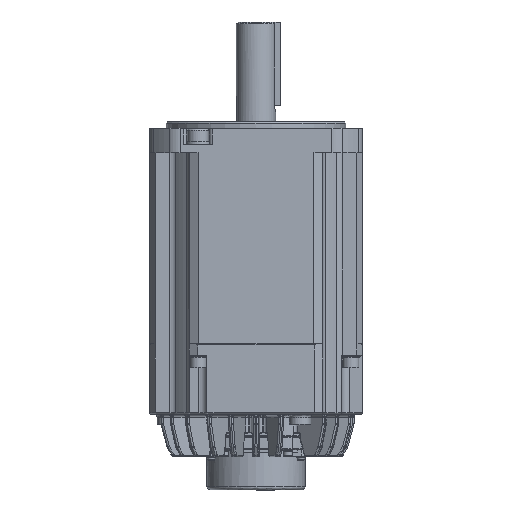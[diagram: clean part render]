
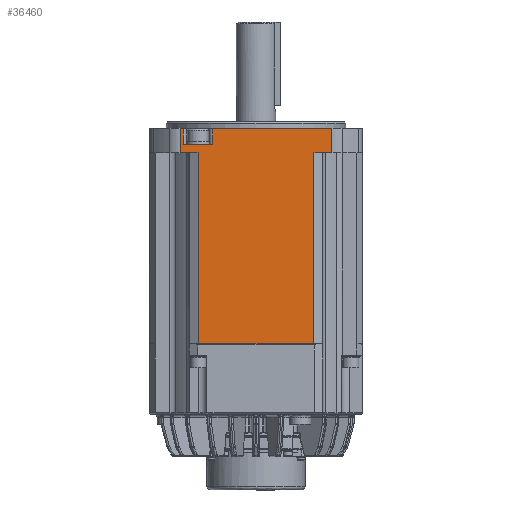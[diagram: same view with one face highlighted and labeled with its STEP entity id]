
A CAD part, front view. The second image highlights one B-rep face of the part: STEP entity #36460.
In plain terms, the highlighted planar face has unit normal (0, -1, 0).
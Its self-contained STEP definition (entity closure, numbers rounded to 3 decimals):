
#60 = EDGE_CURVE ( 'NONE', #5937, #75220, #71008, .T. ) ;
#4202 = VECTOR ( 'NONE', #77422, 1000. ) ;
#5850 = DIRECTION ( 'NONE',  ( 1., 0., 0. ) ) ;
#5937 = VERTEX_POINT ( 'NONE', #42513 ) ;
#6331 = CARTESIAN_POINT ( 'NONE',  ( 126.41, 102.601, 226.769 ) ) ;
#6585 = VERTEX_POINT ( 'NONE', #134991 ) ;
#6995 = EDGE_CURVE ( 'NONE', #75220, #59156, #99518, .T. ) ;
#7043 = CARTESIAN_POINT ( 'NONE',  ( 117.41, 102.601, 95.069 ) ) ;
#7554 = VERTEX_POINT ( 'NONE', #9039 ) ;
#7820 = VERTEX_POINT ( 'NONE', #6331 ) ;
#9039 = CARTESIAN_POINT ( 'NONE',  ( 199.375, 102.601, 212.069 ) ) ;
#9629 = EDGE_CURVE ( 'NONE', #23835, #93661, #115695, .T. ) ;
#10033 = ORIENTED_EDGE ( 'NONE', *, *, #60, .T. ) ;
#10322 = VECTOR ( 'NONE', #5850, 1000. ) ;
#10639 = EDGE_CURVE ( 'NONE', #57050, #6585, #45437, .T. ) ;
#11672 = VECTOR ( 'NONE', #43889, 1000. ) ;
#13548 = EDGE_CURVE ( 'NONE', #18335, #131777, #113483, .T. ) ;
#14604 = DIRECTION ( 'NONE',  ( 0., 0., 1. ) ) ;
#18263 = DIRECTION ( 'NONE',  ( -1., 0., 0. ) ) ;
#18335 = VERTEX_POINT ( 'NONE', #25140 ) ;
#20987 = CARTESIAN_POINT ( 'NONE',  ( 106.445, 102.601, 212.069 ) ) ;
#23835 = VERTEX_POINT ( 'NONE', #20987 ) ;
#24369 = CARTESIAN_POINT ( 'NONE',  ( 126.41, 102.601, 217.069 ) ) ;
#25050 = CARTESIAN_POINT ( 'NONE',  ( 108.41, 102.601, 217.069 ) ) ;
#25140 = CARTESIAN_POINT ( 'NONE',  ( 188.411, 102.601, 95.069 ) ) ;
#26563 = LINE ( 'NONE', #32845, #152503 ) ;
#27506 = DIRECTION ( 'NONE',  ( 1., 0., 0. ) ) ;
#28483 = ORIENTED_EDGE ( 'NONE', *, *, #147550, .T. ) ;
#29404 = DIRECTION ( 'NONE',  ( 1., 0., 0. ) ) ;
#31178 = ORIENTED_EDGE ( 'NONE', *, *, #42071, .T. ) ;
#32014 = CARTESIAN_POINT ( 'NONE',  ( 188.411, 102.601, 212.069 ) ) ;
#32140 = CARTESIAN_POINT ( 'NONE',  ( 117.41, 102.601, 212.069 ) ) ;
#32845 = CARTESIAN_POINT ( 'NONE',  ( 199.375, 102.601, 95.069 ) ) ;
#34282 = DIRECTION ( 'NONE',  ( -1., 0., 0. ) ) ;
#34816 = CARTESIAN_POINT ( 'NONE',  ( 188.411, 102.601, 217.069 ) ) ;
#35446 = EDGE_LOOP ( 'NONE', ( #84594, #89521, #28483, #83058, #136109, #147523, #131231, #72472, #73009, #31178, #150186, #10033, #75243, #87786, #147010 ) ) ;
#36320 = CARTESIAN_POINT ( 'NONE',  ( 106.445, 102.601, 95.069 ) ) ;
#36460 = ADVANCED_FACE ( 'NONE', ( #102243 ), #62724, .T. ) ;
#37202 = VERTEX_POINT ( 'NONE', #55039 ) ;
#38838 = LINE ( 'NONE', #53920, #62845 ) ;
#39412 = LINE ( 'NONE', #7043, #4202 ) ;
#39559 = VECTOR ( 'NONE', #34282, 1000. ) ;
#40622 = EDGE_CURVE ( 'NONE', #37202, #111481, #146151, .T. ) ;
#40658 = CARTESIAN_POINT ( 'NONE',  ( 115.622, 102.601, 217.069 ) ) ;
#41916 = AXIS2_PLACEMENT_3D ( 'NONE', #122216, #51301, #134116 ) ;
#42071 = EDGE_CURVE ( 'NONE', #7820, #105572, #73641, .T. ) ;
#42513 = CARTESIAN_POINT ( 'NONE',  ( 119.199, 102.601, 217.069 ) ) ;
#43593 = CARTESIAN_POINT ( 'NONE',  ( 108.41, 102.601, 226.769 ) ) ;
#43863 = EDGE_CURVE ( 'NONE', #111481, #18335, #69600, .T. ) ;
#43889 = DIRECTION ( 'NONE',  ( 1., 0., 0. ) ) ;
#45437 = LINE ( 'NONE', #75223, #136186 ) ;
#48937 = EDGE_CURVE ( 'NONE', #138582, #7820, #38838, .T. ) ;
#49223 = CARTESIAN_POINT ( 'NONE',  ( 199.375, 102.601, 226.769 ) ) ;
#50333 = CARTESIAN_POINT ( 'NONE',  ( 126.41, 102.601, 95.069 ) ) ;
#50423 = VECTOR ( 'NONE', #99801, 1000. ) ;
#51301 = DIRECTION ( 'NONE',  ( 0., -1., 0. ) ) ;
#53920 = CARTESIAN_POINT ( 'NONE',  ( 188.411, 102.601, 226.769 ) ) ;
#55039 = CARTESIAN_POINT ( 'NONE',  ( 117.41, 102.601, 95.069 ) ) ;
#56773 = DIRECTION ( 'NONE',  ( -1., 0., 0. ) ) ;
#56838 = VECTOR ( 'NONE', #56773, 1000. ) ;
#57050 = VERTEX_POINT ( 'NONE', #43593 ) ;
#59156 = VERTEX_POINT ( 'NONE', #25050 ) ;
#62724 = PLANE ( 'NONE',  #41916 ) ;
#62845 = VECTOR ( 'NONE', #18263, 1000. ) ;
#63307 = DIRECTION ( 'NONE',  ( -1., 0., 0. ) ) ;
#69600 = LINE ( 'NONE', #88679, #10322 ) ;
#71008 = LINE ( 'NONE', #34816, #39559 ) ;
#72472 = ORIENTED_EDGE ( 'NONE', *, *, #153524, .T. ) ;
#73009 = ORIENTED_EDGE ( 'NONE', *, *, #48937, .T. ) ;
#73578 = CARTESIAN_POINT ( 'NONE',  ( 188.411, 102.601, 95.069 ) ) ;
#73641 = LINE ( 'NONE', #50333, #77330 ) ;
#75220 = VERTEX_POINT ( 'NONE', #40658 ) ;
#75223 = CARTESIAN_POINT ( 'NONE',  ( 188.411, 102.601, 226.769 ) ) ;
#75243 = ORIENTED_EDGE ( 'NONE', *, *, #6995, .T. ) ;
#77330 = VECTOR ( 'NONE', #86114, 1000. ) ;
#77422 = DIRECTION ( 'NONE',  ( 0., 0., -1. ) ) ;
#82039 = VECTOR ( 'NONE', #14604, 1000. ) ;
#83058 = ORIENTED_EDGE ( 'NONE', *, *, #40622, .T. ) ;
#84332 = VECTOR ( 'NONE', #27506, 1000. ) ;
#84594 = ORIENTED_EDGE ( 'NONE', *, *, #112008, .T. ) ;
#86114 = DIRECTION ( 'NONE',  ( 0., 0., -1. ) ) ;
#87786 = ORIENTED_EDGE ( 'NONE', *, *, #114517, .T. ) ;
#88679 = CARTESIAN_POINT ( 'NONE',  ( 188.411, 102.601, 95.069 ) ) ;
#89024 = CARTESIAN_POINT ( 'NONE',  ( 188.411, 102.601, 212.069 ) ) ;
#89521 = ORIENTED_EDGE ( 'NONE', *, *, #9629, .T. ) ;
#93661 = VERTEX_POINT ( 'NONE', #32140 ) ;
#99518 = LINE ( 'NONE', #116831, #56838 ) ;
#99801 = DIRECTION ( 'NONE',  ( 0., 0., 1. ) ) ;
#99997 = CARTESIAN_POINT ( 'NONE',  ( 188.411, 102.601, 217.069 ) ) ;
#100247 = CARTESIAN_POINT ( 'NONE',  ( 188.411, 102.601, 95.069 ) ) ;
#102243 = FACE_OUTER_BOUND ( 'NONE', #35446, .T. ) ;
#102394 = LINE ( 'NONE', #32014, #11672 ) ;
#104363 = VECTOR ( 'NONE', #111930, 1000. ) ;
#105572 = VERTEX_POINT ( 'NONE', #24369 ) ;
#108141 = LINE ( 'NONE', #99997, #104363 ) ;
#110281 = CARTESIAN_POINT ( 'NONE',  ( 188.411, 102.601, 212.069 ) ) ;
#111481 = VERTEX_POINT ( 'NONE', #127055 ) ;
#111930 = DIRECTION ( 'NONE',  ( -1., 0., 0. ) ) ;
#112008 = EDGE_CURVE ( 'NONE', #6585, #23835, #117495, .T. ) ;
#113375 = LINE ( 'NONE', #123607, #50423 ) ;
#113483 = LINE ( 'NONE', #73578, #82039 ) ;
#114517 = EDGE_CURVE ( 'NONE', #59156, #57050, #113375, .T. ) ;
#114578 = VECTOR ( 'NONE', #29404, 1000. ) ;
#115597 = DIRECTION ( 'NONE',  ( 0., 0., 1. ) ) ;
#115695 = LINE ( 'NONE', #110281, #84332 ) ;
#116831 = CARTESIAN_POINT ( 'NONE',  ( 188.411, 102.601, 217.069 ) ) ;
#117495 = LINE ( 'NONE', #36320, #152760 ) ;
#119071 = DIRECTION ( 'NONE',  ( 0., 0., -1. ) ) ;
#122216 = CARTESIAN_POINT ( 'NONE',  ( 188.411, 102.601, 95.069 ) ) ;
#123607 = CARTESIAN_POINT ( 'NONE',  ( 108.41, 102.601, 95.069 ) ) ;
#127055 = CARTESIAN_POINT ( 'NONE',  ( 152.91, 102.601, 95.069 ) ) ;
#130516 = EDGE_CURVE ( 'NONE', #131777, #7554, #102394, .T. ) ;
#131231 = ORIENTED_EDGE ( 'NONE', *, *, #130516, .T. ) ;
#131777 = VERTEX_POINT ( 'NONE', #89024 ) ;
#134116 = DIRECTION ( 'NONE',  ( 0., 0., -1. ) ) ;
#134991 = CARTESIAN_POINT ( 'NONE',  ( 106.445, 102.601, 226.769 ) ) ;
#136109 = ORIENTED_EDGE ( 'NONE', *, *, #43863, .T. ) ;
#136186 = VECTOR ( 'NONE', #63307, 1000. ) ;
#138582 = VERTEX_POINT ( 'NONE', #49223 ) ;
#145918 = EDGE_CURVE ( 'NONE', #105572, #5937, #108141, .T. ) ;
#146151 = LINE ( 'NONE', #100247, #114578 ) ;
#147010 = ORIENTED_EDGE ( 'NONE', *, *, #10639, .T. ) ;
#147523 = ORIENTED_EDGE ( 'NONE', *, *, #13548, .T. ) ;
#147550 = EDGE_CURVE ( 'NONE', #93661, #37202, #39412, .T. ) ;
#150186 = ORIENTED_EDGE ( 'NONE', *, *, #145918, .T. ) ;
#152503 = VECTOR ( 'NONE', #115597, 1000. ) ;
#152760 = VECTOR ( 'NONE', #119071, 1000. ) ;
#153524 = EDGE_CURVE ( 'NONE', #7554, #138582, #26563, .T. ) ;
